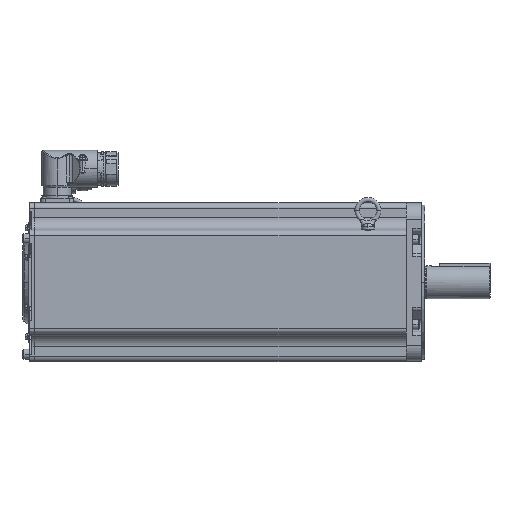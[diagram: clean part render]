
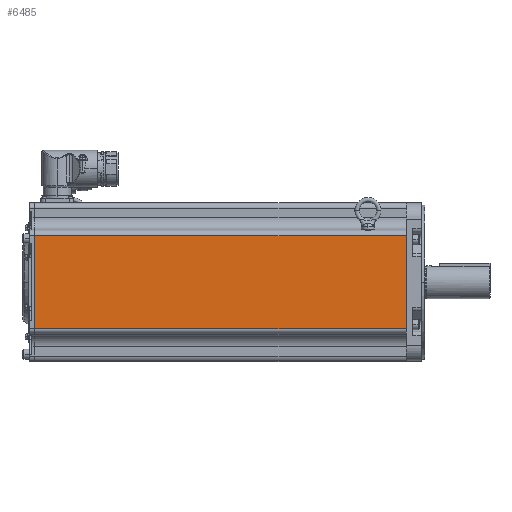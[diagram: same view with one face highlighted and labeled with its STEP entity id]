
A CAD part, top view. The second image highlights one B-rep face of the part: STEP entity #6485.
In plain terms, the highlighted planar face has unit normal (0, 0, 1) as drawn and (0, 0, -1) by its records, which use the part's own axes.
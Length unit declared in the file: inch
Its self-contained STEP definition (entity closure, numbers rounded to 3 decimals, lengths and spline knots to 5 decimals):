
#170 = CARTESIAN_POINT ( 'NONE',  ( -17.768, 2.14, -3.64 ) ) ;
#183 = CARTESIAN_POINT ( 'NONE',  ( -17.768, 2.39, -3.64 ) ) ;
#1221 = DIRECTION ( 'NONE',  ( 0., -1., 0. ) ) ;
#2530 = EDGE_CURVE ( 'NONE', #18481, #7539, #4954, .T. ) ;
#2615 = LINE ( 'NONE', #24790, #24594 ) ;
#2940 = VECTOR ( 'NONE', #20216, 39.37008 ) ;
#4088 = VERTEX_POINT ( 'NONE', #9459 ) ;
#4954 = LINE ( 'NONE', #183, #32691 ) ;
#5257 = PLANE ( 'NONE',  #34203 ) ;
#5943 = DIRECTION ( 'NONE',  ( 0., -1., 0. ) ) ;
#6485 = ADVANCED_FACE ( 'NONE', ( #30597 ), #5257, .F. ) ;
#7539 = VERTEX_POINT ( 'NONE', #18413 ) ;
#8549 = CARTESIAN_POINT ( 'NONE',  ( -17.768, -2.14, -3.64 ) ) ;
#9459 = CARTESIAN_POINT ( 'NONE',  ( -0.7, 2.14, -3.64 ) ) ;
#9676 = LINE ( 'NONE', #170, #2940 ) ;
#10047 = EDGE_CURVE ( 'NONE', #18481, #4088, #9676, .T. ) ;
#11000 = DIRECTION ( 'NONE',  ( 1., 0., 0. ) ) ;
#13620 = VERTEX_POINT ( 'NONE', #23279 ) ;
#15178 = ORIENTED_EDGE ( 'NONE', *, *, #24659, .T. ) ;
#16437 = ORIENTED_EDGE ( 'NONE', *, *, #17578, .T. ) ;
#17578 = EDGE_CURVE ( 'NONE', #4088, #13620, #2615, .T. ) ;
#18413 = CARTESIAN_POINT ( 'NONE',  ( -17.768, -2.14, -3.64 ) ) ;
#18481 = VERTEX_POINT ( 'NONE', #21059 ) ;
#18891 = ORIENTED_EDGE ( 'NONE', *, *, #10047, .T. ) ;
#19085 = VECTOR ( 'NONE', #31437, 39.37008 ) ;
#19972 = LINE ( 'NONE', #8549, #19085 ) ;
#20216 = DIRECTION ( 'NONE',  ( 1., 0., 0. ) ) ;
#21059 = CARTESIAN_POINT ( 'NONE',  ( -17.768, 2.14, -3.64 ) ) ;
#22424 = ORIENTED_EDGE ( 'NONE', *, *, #2530, .F. ) ;
#23279 = CARTESIAN_POINT ( 'NONE',  ( -0.7, -2.14, -3.64 ) ) ;
#23336 = EDGE_LOOP ( 'NONE', ( #16437, #15178, #22424, #18891 ) ) ;
#24594 = VECTOR ( 'NONE', #1221, 39.37008 ) ;
#24659 = EDGE_CURVE ( 'NONE', #13620, #7539, #19972, .T. ) ;
#24790 = CARTESIAN_POINT ( 'NONE',  ( -0.7, 2.39, -3.64 ) ) ;
#25336 = CARTESIAN_POINT ( 'NONE',  ( -17.768, 2.39, -3.64 ) ) ;
#28185 = DIRECTION ( 'NONE',  ( 0., 0., 1. ) ) ;
#30597 = FACE_OUTER_BOUND ( 'NONE', #23336, .T. ) ;
#31437 = DIRECTION ( 'NONE',  ( -1., 0., 0. ) ) ;
#32691 = VECTOR ( 'NONE', #5943, 39.37008 ) ;
#34203 = AXIS2_PLACEMENT_3D ( 'NONE', #25336, #28185, #11000 ) ;
